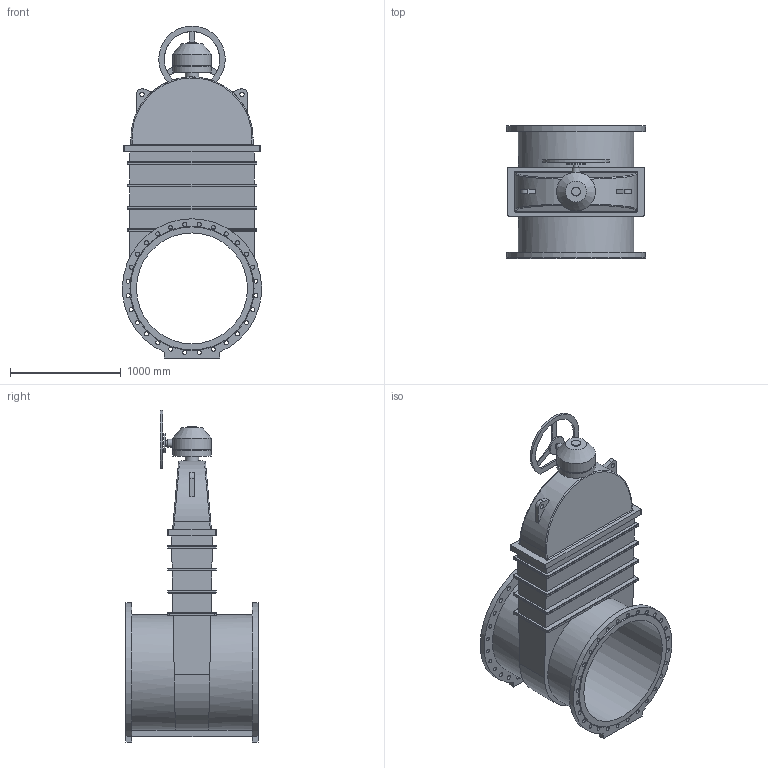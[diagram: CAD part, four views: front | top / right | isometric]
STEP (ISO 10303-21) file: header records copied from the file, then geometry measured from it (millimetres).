
FILE_DESCRIPTION(('STEP AP203'), '1');
FILE_NAME('Çàäâèæêà 47GV DN1000 PN10_L1200 + ðåäóêòîð ñ ìàõîâèêîì', '', ('UNSPECIFIED'), ('UNSPECIFIED'), 'ASCON STEP Converter 1.6', 'ASCON Math Kernel', '');
FILE_SCHEMA(('CONFIG_CONTROL_DESIGN'));
Length unit declared in the file: millimetre
Bounding box: 1254.27 x 1200 x 2992.5 mm (x, y, z)
Volume: 702623779.8 mm3; surface area: 15988586.9 mm2
Topology: 1 solids, 1 shells, 297 faces, 738 edges, 469 vertices
Faces by surface type: cylinder 144, plane 114, bspline 36, cone 3
Full cylindrical faces by diameter (mm): 30 x1, 37 x56, 40 x2, 50 x1, 70 x1, 80 x1, 100 x1, 120 x1, 175 x1, 330 x1, 350 x2, 1000 x1
Entity records: 14502 total; most frequent: CARTESIAN_POINT 5211, DIRECTION 1359, ORIENTED_EDGE 1332, EDGE_CURVE 666, AXIS2_PLACEMENT_3D 523, EDGE_LOOP 519, VERTEX_POINT 469, FACE_BOUND 376
